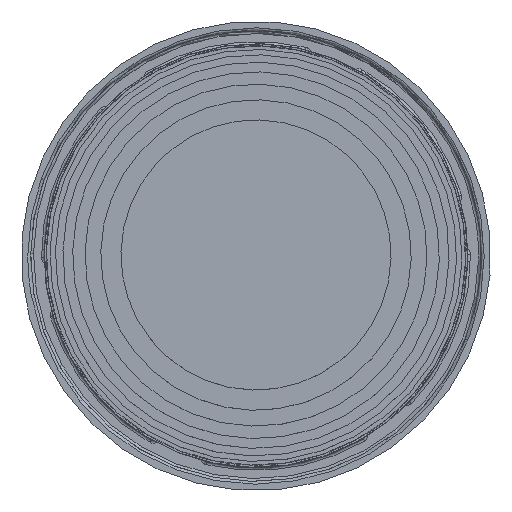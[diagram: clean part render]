
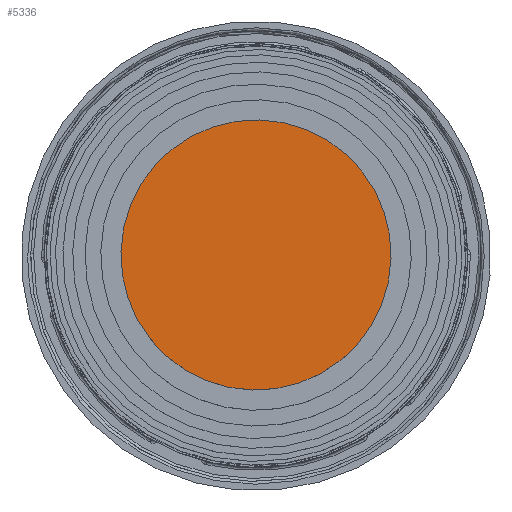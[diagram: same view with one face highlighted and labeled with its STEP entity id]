
A CAD part, top view. The second image highlights one B-rep face of the part: STEP entity #5336.
In plain terms, the highlighted planar face has unit normal (0, 0, 1).
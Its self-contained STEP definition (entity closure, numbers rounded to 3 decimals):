
#504=LINE('',#13791,#748);
#748=VECTOR('',#7521,10.);
#1134=CIRCLE('',#5994,14.356);
#1135=CIRCLE('',#5995,14.356);
#1562=FACE_OUTER_BOUND('',#1877,.T.);
#1877=EDGE_LOOP('',(#4674,#4675,#4676,#4677));
#2392=VERTEX_POINT('',#13786);
#2393=VERTEX_POINT('',#13787);
#2394=VERTEX_POINT('',#13790);
#3183=EDGE_CURVE('',#2392,#2393,#1134,.T.);
#3184=EDGE_CURVE('',#2393,#2392,#1135,.T.);
#3185=EDGE_CURVE('',#2394,#2392,#504,.T.);
#4674=ORIENTED_EDGE('',*,*,#3183,.T.);
#4675=ORIENTED_EDGE('',*,*,#3184,.T.);
#4676=ORIENTED_EDGE('',*,*,#3185,.F.);
#4677=ORIENTED_EDGE('',*,*,#3185,.T.);
#5054=PLANE('',#5993);
#5336=ADVANCED_FACE('',(#1562),#5054,.T.);
#5993=AXIS2_PLACEMENT_3D('',#13785,#7515,#7516);
#5994=AXIS2_PLACEMENT_3D('',#13788,#7517,#7518);
#5995=AXIS2_PLACEMENT_3D('',#13789,#7519,#7520);
#7515=DIRECTION('center_axis',(0.,0.,1.));
#7516=DIRECTION('ref_axis',(1.,0.,0.));
#7517=DIRECTION('center_axis',(0.,0.,
1.));
#7518=DIRECTION('ref_axis',(0.622,-0.783,0.));
#7519=DIRECTION('center_axis',(0.,0.,
1.));
#7520=DIRECTION('ref_axis',(0.622,-0.783,0.));
#7521=DIRECTION('',(0.783,0.622,0.));
#13785=CARTESIAN_POINT('Origin',(-994.085,4.463,137.748));
#13786=CARTESIAN_POINT('',(-988.463,8.927,137.748));
#13787=CARTESIAN_POINT('',(-1010.949,-8.927,137.748));
#13788=CARTESIAN_POINT('Origin',(-999.706,0.,
137.748));
#13789=CARTESIAN_POINT('Origin',(-999.706,0.,
137.748));
#13790=CARTESIAN_POINT('',(-999.706,0.,137.748));
#13791=CARTESIAN_POINT('',(-999.706,0.,137.748));
